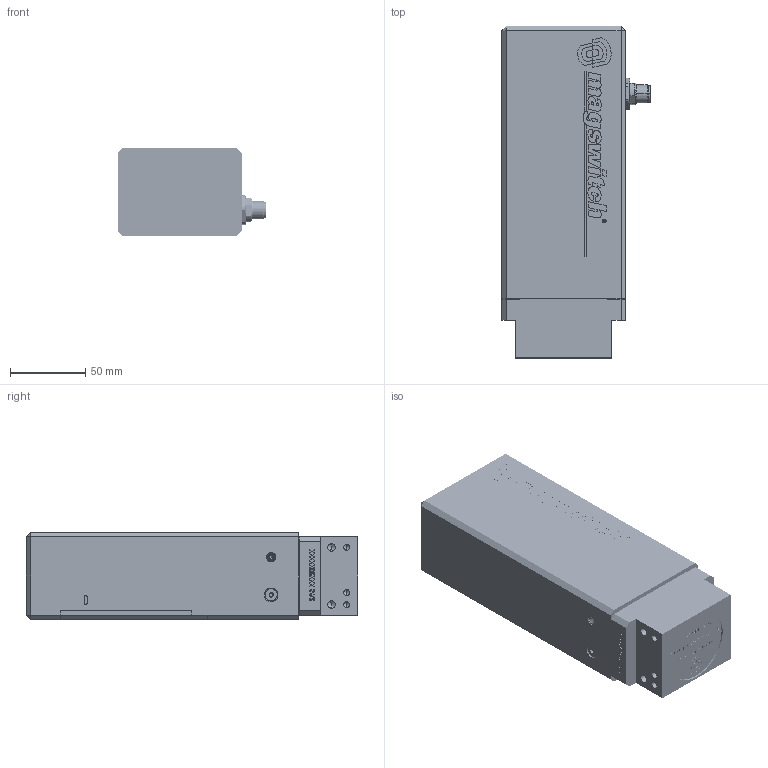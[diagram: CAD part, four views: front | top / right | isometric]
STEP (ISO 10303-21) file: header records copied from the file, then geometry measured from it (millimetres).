
FILE_DESCRIPTION (( 'STEP AP203' ), '1' );
FILE_NAME ('81401264_p.STEP', '2021-12-20T18:29:01', ( '' ), ( '' ), 'SwSTEP 2.0', 'SolidWorks 2018', '' );
FILE_SCHEMA (( 'CONFIG_CONTROL_DESIGN' ));
Products named in the file (1): 81401264_p
Bounding box: 98.3 x 220 x 58 mm (x, y, z)
Volume: 343110.2 mm3; surface area: 140216.4 mm2
Topology: 15 solids, 15 shells, 3810 faces, 10231 edges, 6705 vertices
Faces by surface type: plane 1726, bspline 1060, cylinder 815, cone 189, torus 20
Entity records: 180521 total; most frequent: CARTESIAN_POINT 95558, ORIENTED_EDGE 20322, DIRECTION 13124, EDGE_CURVE 10161, VERTEX_POINT 6704, VECTOR 6074, LINE 6074, EDGE_LOOP 4167
